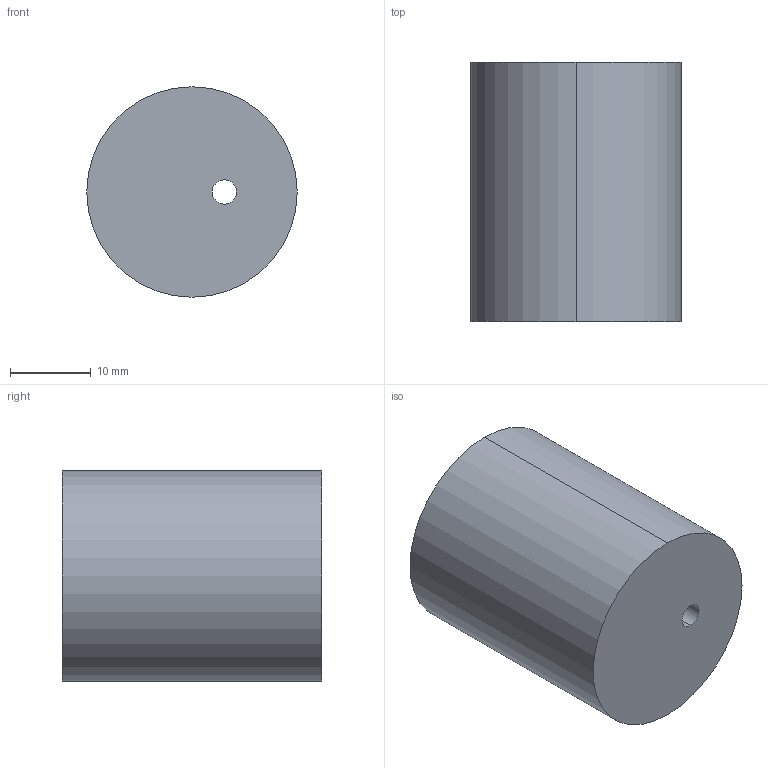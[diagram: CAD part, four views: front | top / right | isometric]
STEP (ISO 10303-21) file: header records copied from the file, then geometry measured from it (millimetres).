
FILE_DESCRIPTION (( 'STEP AP214' ), '1' );
FILE_NAME ('BR1716-26.STEP', '2020-01-29T17:55:22', ( 'August' ), ( '' ), 'SwSTEP 2.0', 'SolidWorks 2018', '' );
FILE_SCHEMA (( 'AUTOMOTIVE_DESIGN' ));
Length unit declared in the file: millimetre
Products named in the file (1): BR1716-26
Bounding box: 26 x 32 x 26 mm (x, y, z)
Volume: 16763.5 mm3; surface area: 3963.1 mm2
Topology: 1 solids, 1 shells, 6 faces, 12 edges, 8 vertices
Faces by surface type: cylinder 4, plane 2
Entity records: 202 total; most frequent: DIRECTION 34, CARTESIAN_POINT 27, ORIENTED_EDGE 24, AXIS2_PLACEMENT_3D 15, EDGE_CURVE 12, EDGE_LOOP 8, CIRCLE 8, VERTEX_POINT 8
